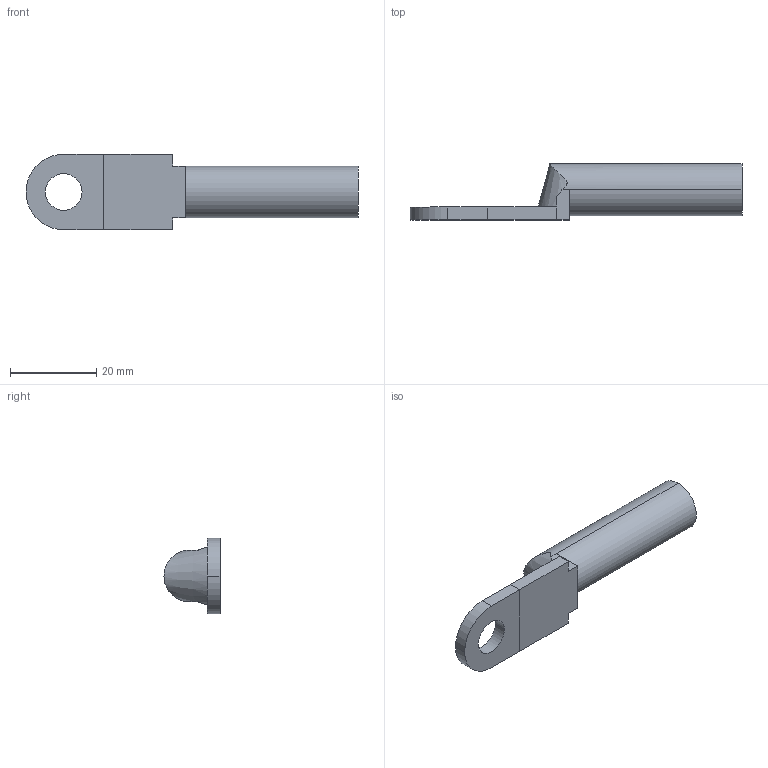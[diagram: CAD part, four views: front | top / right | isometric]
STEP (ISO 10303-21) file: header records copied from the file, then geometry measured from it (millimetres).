
FILE_DESCRIPTION (( 'STEP AP214' ), '1' );
FILE_NAME ('OptiKit L-DTL 25-8.STEP', '2020-04-24T12:48:29', ( '' ), ( '' ), 'SwSTEP 2.0', 'SolidWorks 2018', '' );
FILE_SCHEMA (( 'AUTOMOTIVE_DESIGN' ));
Length unit declared in the file: millimetre
Products named in the file (3): 极噉 25-8; DTL-25-8; OptiKit L-DTL 25-8
Assembly tree (2 placements, depth 2):
  OptiKit L-DTL 25-8
    DTL-25-8
    极噉 25-8
Bounding box: 77 x 13 x 17.5 mm (x, y, z)
Volume: 4916.4 mm3; surface area: 4266.9 mm2
Topology: 2 solids, 2 shells, 26 faces, 61 edges, 40 vertices
Faces by surface type: plane 17, cylinder 8, cone 1
Entity records: 934 total; most frequent: CARTESIAN_POINT 217, DIRECTION 134, ORIENTED_EDGE 122, EDGE_CURVE 61, AXIS2_PLACEMENT_3D 47, VERTEX_POINT 40, LINE 40, VECTOR 40
